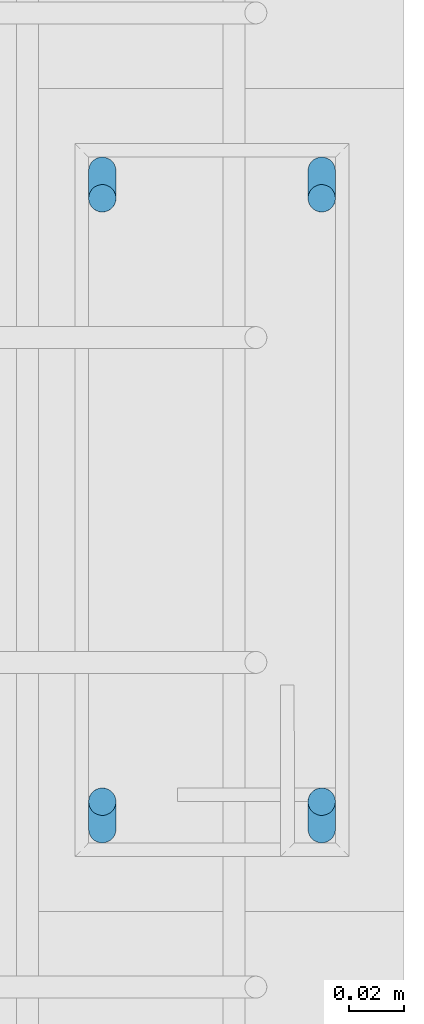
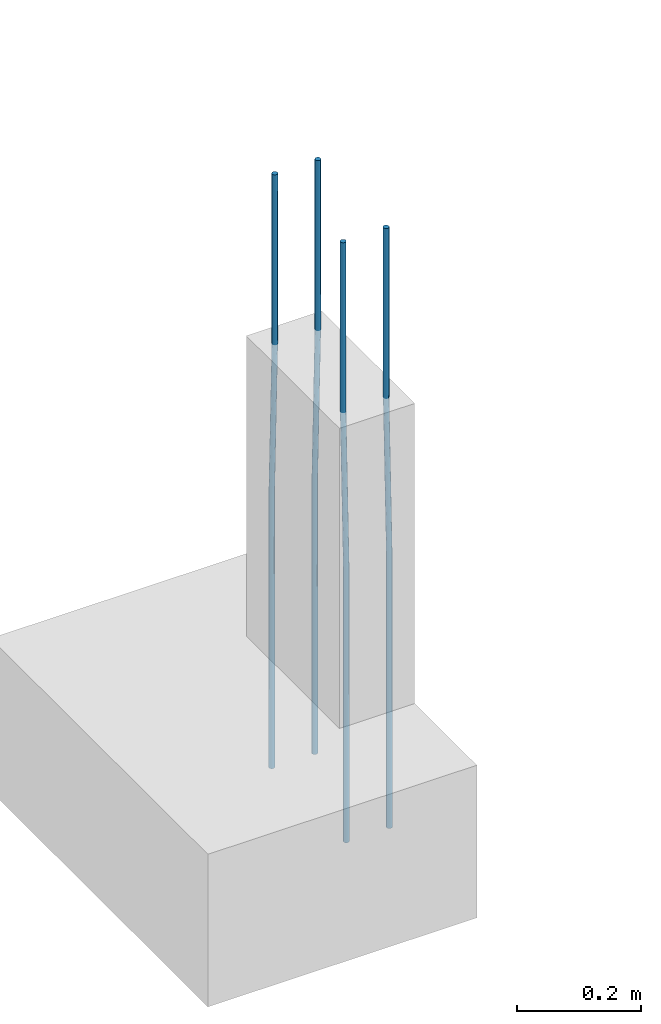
# One storey, part 42 of 119: 4 reinforcing bars.
"""IFC4 building model written with IfcOpenShell, lengths in centimetres."""

from ifc_helpers import new_model, entity, si_unit, derived_unit, frame, origin_with_axes, place, context, project, spatial, element, save


model = new_model("IFC4")

# Units and contexts
model_context = context("Model", 3, precision=1e-05, world=origin_with_axes(), identifier="Body")
ifc_project = project(units=[si_unit("LENGTHUNIT", "METRE", prefix="CENTI"), si_unit("VOLUMEUNIT", "CUBIC_METRE"), si_unit("AREAUNIT", "SQUARE_METRE"), si_unit("POWERUNIT", "WATT"), si_unit("LUMINOUSFLUXUNIT", "LUMEN"), si_unit("ELECTRICCURRENTUNIT", "AMPERE"), si_unit("PRESSUREUNIT", "PASCAL", prefix="KILO"), si_unit("MASSUNIT", "GRAM", prefix="KILO"), si_unit("PLANEANGLEUNIT", "RADIAN"), derived_unit("VOLUMETRICFLOWRATEUNIT", [(si_unit("LENGTHUNIT", "METRE"), 3), (si_unit("TIMEUNIT", "SECOND"), -1)])], contexts=[model_context])

# Site, building, storey
site_placement = place(None, frame((-4000.0, 0.0, 0.0), z_axis=(0.0, 0.0, 1.0), x_axis=(1.0, 0.0, 0.0)))
site = spatial("IfcSite", under=ifc_project, at=site_placement, Name="PADRÃO")
building_placement = place(site_placement, frame((0.0, 0.0, -14.0)))
building = spatial("IfcBuilding", under=site, at=building_placement, Name="CRECHE PRÉ-ESCOLA TIPO 2")
storey_placement = place(building_placement, origin_with_axes())
storey = spatial("IfcBuildingStorey", under=building, at=storey_placement, Name="FUNDAÇÃO", CompositionType="ELEMENT", Elevation=-14.0)

# Reinforcing bars
for number, where, z_axis, x_axis, name in (
    (1, (3989.0, 1775.61, 33.3573001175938), (0.0, 0.0, 1.0), (1.0, 0.0, 0.0), "P100 - Longitudinal"),
    (2, (3997.0, 1775.61, 33.3573001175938), (0.0, 0.0, 1.0), (1.0, 0.0, 0.0), "P100 - Longitudinal"),
):
    element("IfcReinforcingBar", number, at=place(storey_placement, frame(where, z_axis=z_axis, x_axis=x_axis)), inside=storey, Name=name, BarLength=0.0, CrossSectionArea=7.853981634e-05, NominalDiameter=1.0, PredefinedType="MAIN", context=model_context, shape_type="AdvancedSweptSolid", body=[
        entity("IfcSweptDiskSolid", entity("IfcCompositeCurve", [entity("IfcCompositeCurveSegment", "CONTINUOUS", True, entity("IfcPolyline", [entity("IfcCartesianPoint", [0.0, 0.5, -117.357300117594]), entity("IfcCartesianPoint", [0.0, 0.5, -63.3573001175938])])), entity("IfcCompositeCurveSegment", "CONTINUOUS", True, entity("IfcPolyline", [entity("IfcCartesianPoint", [0.0, 0.5, -63.3573001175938]), entity("IfcCartesianPoint", [0.0, -0.5, -33.3573001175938])])), entity("IfcCompositeCurveSegment", "CONTINUOUS", True, entity("IfcPolyline", [entity("IfcCartesianPoint", [0.0, -0.5, -33.3573001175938]), entity("IfcCartesianPoint", [0.0, -0.5, 0.0])]))], False), 0.5),
    ])
for number, where, z_axis, x_axis, name in (
    (3, (3997.0, 1752.61, 33.3573001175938), (0.0, 0.0, 1.0), (1.0, 0.0, 0.0), "P100 - Longitudinal"),
    (4, (3989.0, 1752.61, 33.3573001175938), (0.0, 0.0, 1.0), (1.0, 0.0, 0.0), "P100 - Longitudinal"),
):
    element("IfcReinforcingBar", number, at=place(storey_placement, frame(where, z_axis=z_axis, x_axis=x_axis)), inside=storey, Name=name, BarLength=0.0, CrossSectionArea=7.853981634e-05, NominalDiameter=1.0, PredefinedType="MAIN", context=model_context, shape_type="AdvancedSweptSolid", body=[
        entity("IfcSweptDiskSolid", entity("IfcCompositeCurve", [entity("IfcCompositeCurveSegment", "CONTINUOUS", True, entity("IfcPolyline", [entity("IfcCartesianPoint", [0.0, -0.5, -117.357300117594]), entity("IfcCartesianPoint", [0.0, -0.5, -63.3573001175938])])), entity("IfcCompositeCurveSegment", "CONTINUOUS", True, entity("IfcPolyline", [entity("IfcCartesianPoint", [0.0, -0.5, -63.3573001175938]), entity("IfcCartesianPoint", [0.0, 0.5, -33.3573001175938])])), entity("IfcCompositeCurveSegment", "CONTINUOUS", True, entity("IfcPolyline", [entity("IfcCartesianPoint", [0.0, 0.5, -33.3573001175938]), entity("IfcCartesianPoint", [0.0, 0.5, 0.0])]))], False), 0.5),
    ])

save(model, "model.ifc")
